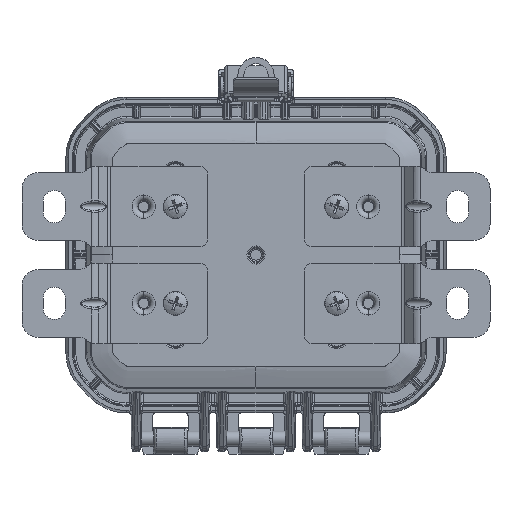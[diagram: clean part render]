
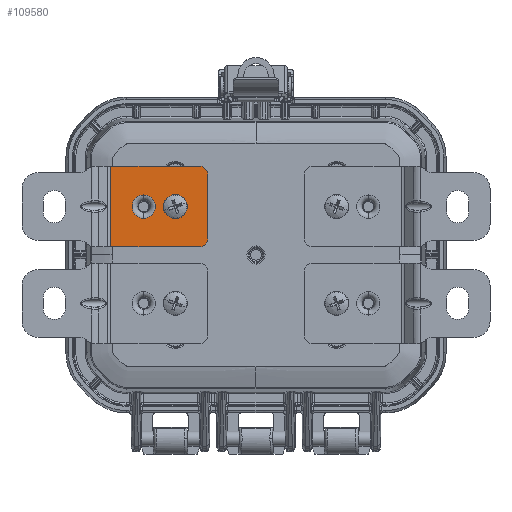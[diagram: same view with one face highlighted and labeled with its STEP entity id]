
A CAD part, front view. The second image highlights one B-rep face of the part: STEP entity #109580.
In plain terms, the highlighted planar face has unit normal (0, -1, 0).
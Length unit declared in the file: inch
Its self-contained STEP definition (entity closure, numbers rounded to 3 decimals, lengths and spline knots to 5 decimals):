
#1431 = ORIENTED_EDGE ( 'NONE', *, *, #107823, .T. ) ;
#1620 = DIRECTION ( 'NONE',  ( 0., -1., 0. ) ) ;
#2803 = ORIENTED_EDGE ( 'NONE', *, *, #59512, .T. ) ;
#4338 = VERTEX_POINT ( 'NONE', #41343 ) ;
#7650 = EDGE_CURVE ( 'NONE', #22632, #54323, #89832, .T. ) ;
#8884 = LINE ( 'NONE', #158499, #59097 ) ;
#9101 = VERTEX_POINT ( 'NONE', #14567 ) ;
#10427 = VERTEX_POINT ( 'NONE', #91347 ) ;
#11368 = LINE ( 'NONE', #92813, #161337 ) ;
#12984 = DIRECTION ( 'NONE',  ( 0., 1., 0. ) ) ;
#13894 = CARTESIAN_POINT ( 'NONE',  ( -0.5, 0., 0.1005 ) ) ;
#14567 = CARTESIAN_POINT ( 'NONE',  ( -0.125, 0., 0.625 ) ) ;
#20588 = AXIS2_PLACEMENT_3D ( 'NONE', #38680, #12984, #53707 ) ;
#22632 = VERTEX_POINT ( 'NONE', #89588 ) ;
#22832 = VERTEX_POINT ( 'NONE', #76094 ) ;
#24731 = CIRCLE ( 'NONE', #64264, 0.125 ) ;
#25047 = DIRECTION ( 'NONE',  ( 0., -1., 0. ) ) ;
#26750 = ORIENTED_EDGE ( 'NONE', *, *, #7650, .F. ) ;
#29073 = CARTESIAN_POINT ( 'NONE',  ( -0.125, 0., -0.5 ) ) ;
#29622 = CARTESIAN_POINT ( 'NONE',  ( 0., 0., 0. ) ) ;
#32271 = AXIS2_PLACEMENT_3D ( 'NONE', #29073, #1620, #162776 ) ;
#35023 = AXIS2_PLACEMENT_3D ( 'NONE', #29622, #165959, #70318 ) ;
#35886 = DIRECTION ( 'NONE',  ( -1., 0., 0. ) ) ;
#35917 = DIRECTION ( 'NONE',  ( 0., 1., 0. ) ) ;
#37045 = ORIENTED_EDGE ( 'NONE', *, *, #137916, .T. ) ;
#37633 = DIRECTION ( 'NONE',  ( 0., 1., 0. ) ) ;
#38499 = ORIENTED_EDGE ( 'NONE', *, *, #89340, .F. ) ;
#38680 = CARTESIAN_POINT ( 'NONE',  ( -0.5, 0., 0. ) ) ;
#41343 = CARTESIAN_POINT ( 'NONE',  ( -1.5, 0., 0.625 ) ) ;
#43324 = DIRECTION ( 'NONE',  ( 0., 0., 1. ) ) ;
#46416 = CIRCLE ( 'NONE', #32271, 0.125 ) ;
#52826 = CARTESIAN_POINT ( 'NONE',  ( -0.988, 0., 0.18039 ) ) ;
#53707 = DIRECTION ( 'NONE',  ( 0., 0., 1. ) ) ;
#54323 = VERTEX_POINT ( 'NONE', #67801 ) ;
#55091 = ORIENTED_EDGE ( 'NONE', *, *, #131325, .T. ) ;
#56160 = VERTEX_POINT ( 'NONE', #132203 ) ;
#56898 = AXIS2_PLACEMENT_3D ( 'NONE', #103217, #35917, #157195 ) ;
#57912 = PLANE ( 'NONE',  #35023 ) ;
#59097 = VECTOR ( 'NONE', #129276, 39.37008 ) ;
#59512 = EDGE_CURVE ( 'NONE', #110797, #9101, #24731, .T. ) ;
#59531 = EDGE_LOOP ( 'NONE', ( #1431, #37045 ) ) ;
#64264 = AXIS2_PLACEMENT_3D ( 'NONE', #92311, #25047, #43324 ) ;
#67801 = CARTESIAN_POINT ( 'NONE',  ( -1.5, 0., -0.625 ) ) ;
#70318 = DIRECTION ( 'NONE',  ( 0., 0., 1. ) ) ;
#73362 = VERTEX_POINT ( 'NONE', #13894 ) ;
#76094 = CARTESIAN_POINT ( 'NONE',  ( 0., 0., -0.5 ) ) ;
#76142 = EDGE_LOOP ( 'NONE', ( #91533, #103454 ) ) ;
#78358 = ORIENTED_EDGE ( 'NONE', *, *, #129940, .T. ) ;
#82153 = DIRECTION ( 'NONE',  ( 0., 0., -1. ) ) ;
#83022 = CARTESIAN_POINT ( 'NONE',  ( -1.5, 0., 0. ) ) ;
#85647 = CIRCLE ( 'NONE', #20588, 0.1005 ) ;
#88129 = EDGE_CURVE ( 'NONE', #10427, #148257, #122025, .T. ) ;
#88952 = CARTESIAN_POINT ( 'NONE',  ( -0.5, 0., 0. ) ) ;
#89340 = EDGE_CURVE ( 'NONE', #110797, #22832, #11368, .T. ) ;
#89588 = CARTESIAN_POINT ( 'NONE',  ( -0.125, 0., -0.625 ) ) ;
#89595 = CARTESIAN_POINT ( 'NONE',  ( -0.988, 0., 0. ) ) ;
#89832 = LINE ( 'NONE', #131432, #100209 ) ;
#91347 = CARTESIAN_POINT ( 'NONE',  ( -0.988, 0., -0.18039 ) ) ;
#91533 = ORIENTED_EDGE ( 'NONE', *, *, #88129, .T. ) ;
#92311 = CARTESIAN_POINT ( 'NONE',  ( -0.125, 0., 0.5 ) ) ;
#92813 = CARTESIAN_POINT ( 'NONE',  ( 0., 0., -0.625 ) ) ;
#97347 = EDGE_CURVE ( 'NONE', #148257, #10427, #160803, .T. ) ;
#100209 = VECTOR ( 'NONE', #35886, 39.37008 ) ;
#103217 = CARTESIAN_POINT ( 'NONE',  ( -0.988, 0., 0. ) ) ;
#103454 = ORIENTED_EDGE ( 'NONE', *, *, #97347, .T. ) ;
#107823 = EDGE_CURVE ( 'NONE', #73362, #56160, #85647, .T. ) ;
#109580 = ADVANCED_FACE ( 'NONE', ( #127833, #150930, #124340 ), #57912, .F. ) ;
#110797 = VERTEX_POINT ( 'NONE', #140043 ) ;
#112593 = EDGE_LOOP ( 'NONE', ( #172227, #78358, #26750, #55091, #38499, #2803 ) ) ;
#118416 = AXIS2_PLACEMENT_3D ( 'NONE', #88952, #37633, #130581 ) ;
#122025 = CIRCLE ( 'NONE', #56898, 0.18039 ) ;
#124340 = FACE_OUTER_BOUND ( 'NONE', #112593, .T. ) ;
#126857 = CIRCLE ( 'NONE', #118416, 0.1005 ) ;
#127833 = FACE_BOUND ( 'NONE', #76142, .T. ) ;
#129276 = DIRECTION ( 'NONE',  ( 1., 0., 0. ) ) ;
#129940 = EDGE_CURVE ( 'NONE', #4338, #54323, #162755, .T. ) ;
#130581 = DIRECTION ( 'NONE',  ( 0., 0., 1. ) ) ;
#131325 = EDGE_CURVE ( 'NONE', #22632, #22832, #46416, .T. ) ;
#131432 = CARTESIAN_POINT ( 'NONE',  ( 0., 0., -0.625 ) ) ;
#132203 = CARTESIAN_POINT ( 'NONE',  ( -0.5, 0., -0.1005 ) ) ;
#133837 = DIRECTION ( 'NONE',  ( 0., 0., -1. ) ) ;
#137916 = EDGE_CURVE ( 'NONE', #56160, #73362, #126857, .T. ) ;
#138141 = AXIS2_PLACEMENT_3D ( 'NONE', #89595, #174619, #133837 ) ;
#140043 = CARTESIAN_POINT ( 'NONE',  ( 0., 0., 0.5 ) ) ;
#141461 = EDGE_CURVE ( 'NONE', #4338, #9101, #8884, .T. ) ;
#148257 = VERTEX_POINT ( 'NONE', #52826 ) ;
#150930 = FACE_BOUND ( 'NONE', #59531, .T. ) ;
#157195 = DIRECTION ( 'NONE',  ( 0., 0., -1. ) ) ;
#158499 = CARTESIAN_POINT ( 'NONE',  ( -1.81456, 0., 0.625 ) ) ;
#160803 = CIRCLE ( 'NONE', #138141, 0.18039 ) ;
#161337 = VECTOR ( 'NONE', #175195, 39.37008 ) ;
#162755 = LINE ( 'NONE', #83022, #164648 ) ;
#162776 = DIRECTION ( 'NONE',  ( 0., 0., 1. ) ) ;
#164648 = VECTOR ( 'NONE', #82153, 39.37008 ) ;
#165959 = DIRECTION ( 'NONE',  ( 0., 1., 0. ) ) ;
#172227 = ORIENTED_EDGE ( 'NONE', *, *, #141461, .F. ) ;
#174619 = DIRECTION ( 'NONE',  ( 0., 1., 0. ) ) ;
#175195 = DIRECTION ( 'NONE',  ( 0., 0., -1. ) ) ;
